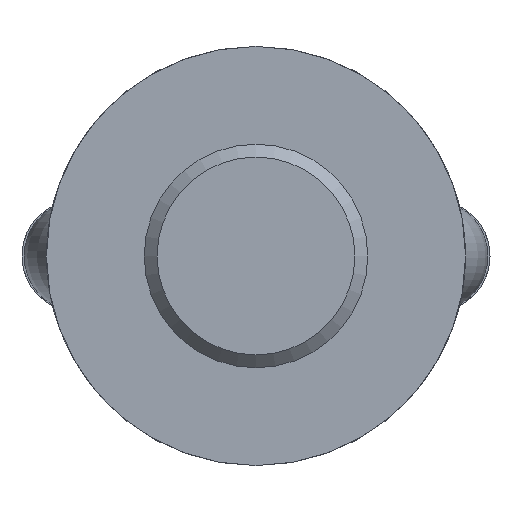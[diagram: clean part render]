
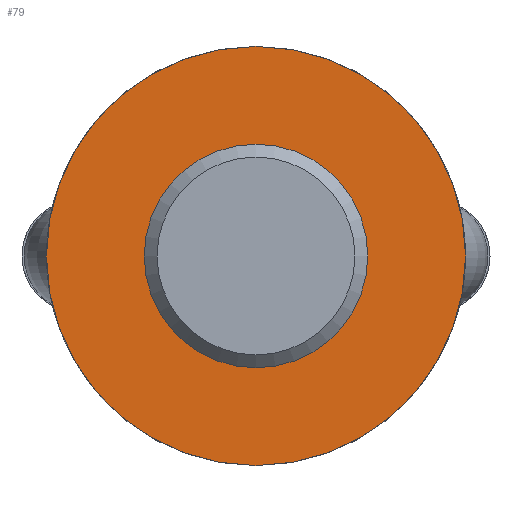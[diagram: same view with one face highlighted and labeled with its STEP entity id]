
A CAD part, front view. The second image highlights one B-rep face of the part: STEP entity #79.
In plain terms, the highlighted planar face has unit normal (0, -1, 0).
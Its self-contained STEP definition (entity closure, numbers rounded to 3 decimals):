
#79 = ADVANCED_FACE( '', ( #115, #116 ), #117, .F. );
#115 = FACE_BOUND( '', #186, .T. );
#116 = FACE_OUTER_BOUND( '', #187, .T. );
#117 = PLANE( '', #188 );
#186 = EDGE_LOOP( '', ( #276 ) );
#187 = EDGE_LOOP( '', ( #277 ) );
#188 = AXIS2_PLACEMENT_3D( '', #278, #279, #280 );
#276 = ORIENTED_EDGE( '', *, *, #464, .T. );
#277 = ORIENTED_EDGE( '', *, *, #465, .T. );
#278 = CARTESIAN_POINT( '', ( 60., 0., 0. ) );
#279 = DIRECTION( '', ( 0., 1., 0. ) );
#280 = DIRECTION( '', ( 0., 0., 1. ) );
#464 = EDGE_CURVE( '', #539, #539, #540, .T. );
#465 = EDGE_CURVE( '', #541, #541, #542, .T. );
#539 = VERTEX_POINT( '', #875 );
#540 = CIRCLE( '', #876, 32. );
#541 = VERTEX_POINT( '', #877 );
#542 = CIRCLE( '', #878, 60. );
#875 = CARTESIAN_POINT( '', ( 0., 0., 32. ) );
#876 = AXIS2_PLACEMENT_3D( '', #1216, #1217, #1218 );
#877 = CARTESIAN_POINT( '', ( 0., 0., -60. ) );
#878 = AXIS2_PLACEMENT_3D( '', #1219, #1220, #1221 );
#1216 = CARTESIAN_POINT( '', ( 0., 0., 0. ) );
#1217 = DIRECTION( '', ( 0., 1., 0. ) );
#1218 = DIRECTION( '', ( 0., 0., 1. ) );
#1219 = CARTESIAN_POINT( '', ( 0., 0., 0. ) );
#1220 = DIRECTION( '', ( 0., -1., 0. ) );
#1221 = DIRECTION( '', ( 0., 0., -1. ) );
